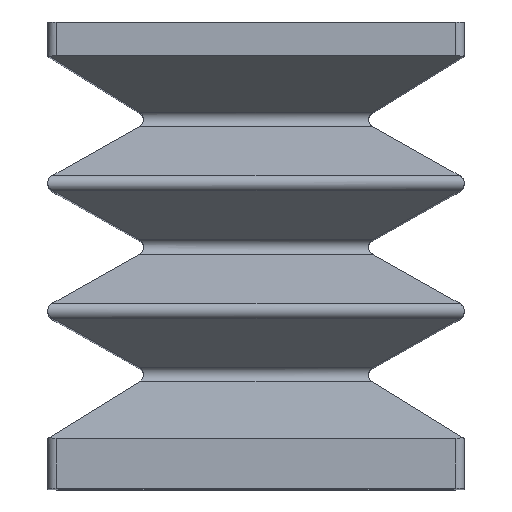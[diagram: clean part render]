
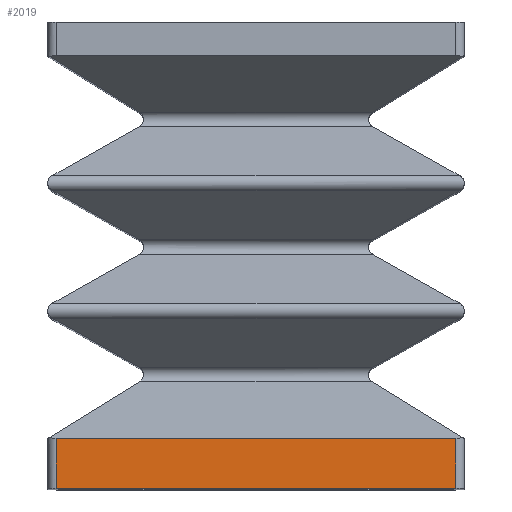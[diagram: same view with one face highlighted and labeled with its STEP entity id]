
A CAD part, top view. The second image highlights one B-rep face of the part: STEP entity #2019.
In plain terms, the highlighted planar face has unit normal (0, 0, 1).
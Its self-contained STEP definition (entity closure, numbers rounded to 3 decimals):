
#102 = LINE ( 'NONE', #1777, #1539 ) ;
#104 = VERTEX_POINT ( 'NONE', #304 ) ;
#139 = CARTESIAN_POINT ( 'NONE',  ( 12., -28., 46. ) ) ;
#182 = ORIENTED_EDGE ( 'NONE', *, *, #888, .F. ) ;
#304 = CARTESIAN_POINT ( 'NONE',  ( 12., -25., 46. ) ) ;
#318 = DIRECTION ( 'NONE',  ( 0., 0., -1. ) ) ;
#561 = LINE ( 'NONE', #1937, #2890 ) ;
#619 = PLANE ( 'NONE',  #1409 ) ;
#888 = EDGE_CURVE ( 'NONE', #104, #926, #102, .T. ) ;
#925 = VERTEX_POINT ( 'NONE', #1089 ) ;
#926 = VERTEX_POINT ( 'NONE', #139 ) ;
#1069 = VECTOR ( 'NONE', #1671, 1000. ) ;
#1089 = CARTESIAN_POINT ( 'NONE',  ( -12., -25., 46. ) ) ;
#1409 = AXIS2_PLACEMENT_3D ( 'NONE', #2639, #318, #3623 ) ;
#1539 = VECTOR ( 'NONE', #3107, 1000. ) ;
#1540 = ORIENTED_EDGE ( 'NONE', *, *, #1951, .T. ) ;
#1547 = VECTOR ( 'NONE', #3643, 1000. ) ;
#1575 = EDGE_LOOP ( 'NONE', ( #182, #1540, #3128, #1709 ) ) ;
#1671 = DIRECTION ( 'NONE',  ( -1., 0., 0. ) ) ;
#1709 = ORIENTED_EDGE ( 'NONE', *, *, #4237, .F. ) ;
#1777 = CARTESIAN_POINT ( 'NONE',  ( 12., -25., 46. ) ) ;
#1937 = CARTESIAN_POINT ( 'NONE',  ( 12., -28., 46. ) ) ;
#1951 = EDGE_CURVE ( 'NONE', #104, #925, #4345, .T. ) ;
#1954 = FACE_OUTER_BOUND ( 'NONE', #1575, .T. ) ;
#1997 = EDGE_CURVE ( 'NONE', #3567, #925, #3691, .T. ) ;
#2019 = ADVANCED_FACE ( 'NONE', ( #1954 ), #619, .F. ) ;
#2226 = DIRECTION ( 'NONE',  ( -1., 0., 0. ) ) ;
#2425 = CARTESIAN_POINT ( 'NONE',  ( -12., -28., 46. ) ) ;
#2639 = CARTESIAN_POINT ( 'NONE',  ( 18.5, -25., 46. ) ) ;
#2890 = VECTOR ( 'NONE', #2226, 1000. ) ;
#2926 = CARTESIAN_POINT ( 'NONE',  ( -12., -28., 46. ) ) ;
#3107 = DIRECTION ( 'NONE',  ( 0., -1., 0. ) ) ;
#3128 = ORIENTED_EDGE ( 'NONE', *, *, #1997, .F. ) ;
#3567 = VERTEX_POINT ( 'NONE', #2425 ) ;
#3623 = DIRECTION ( 'NONE',  ( -1., 0., 0. ) ) ;
#3643 = DIRECTION ( 'NONE',  ( 0., 1., 0. ) ) ;
#3667 = CARTESIAN_POINT ( 'NONE',  ( 12., -25., 46. ) ) ;
#3691 = LINE ( 'NONE', #2926, #1547 ) ;
#4237 = EDGE_CURVE ( 'NONE', #926, #3567, #561, .T. ) ;
#4345 = LINE ( 'NONE', #3667, #1069 ) ;
